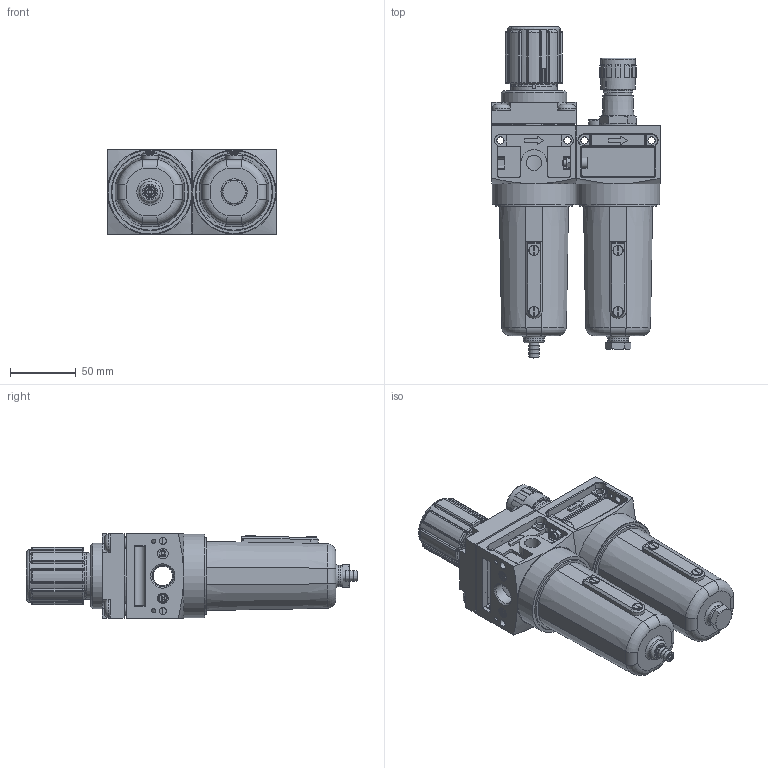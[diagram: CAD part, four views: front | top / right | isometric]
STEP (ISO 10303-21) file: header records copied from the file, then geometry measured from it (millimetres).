
FILE_DESCRIPTION(/* description */ ('GRUPPO FR+L'),/* implementation_level */ '2;1');
FILE_NAME(/* name */ '612#L001D0GN00.stp',/* time_stamp */ '2025-05-13T15:17:58+02:00',/* author */ ('MassimoRatti'),/* organization */ (''),/* preprocessor_version */ 'ST-DEVELOPER v20',/* originating_system */ 'Autodesk Inventor 2025',/* authorisation */ '');
FILE_SCHEMA (('AUTOMOTIVE_DESIGN { 1 0 10303 214 3 1 1 }'));
Length unit declared in the file: millimetre
Products named in the file (86): C90002; C88004; P40018; P52008; C28001; C28001-A; P38062; P43014; 0DQ10400; 0DF51206; P21012; C23036; P43094; P23018; P44025; OR 05006; C22087; P22053; OR 14030; OR 08022; P41061; P20094; 0DM10400; P66008; P61033; P48029; P34118; P34104; P25030; P24026; P24026_1; 0DS50510; 0DS50510_1; 0DS50510_2; 0DS50510_3; P50007; P53003; P53003_1; OR 13091; C55003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
Assembly tree (94 placements, depth 5):
  C90002
    C88004
      P40018
      P52008
      C28001
        C28001-A
        P38062
      P43014
      0DQ10400
      0DF51206
      P21012
      C23036
        P43094
        P23018
        P44025
        OR 05006
      C22087
        P22053
        OR 14030
        OR 08022
        P41061
      P20094
      0DM10400
      P66008
      P61033
      P48029
      P34118
      P34104
      P25030
      P24026
        P24026_1
      0DS50510
      0DS50510_1
      0DS50510_2
      0DS50510_3
      P50007
      P53003
      P53003_1
      C60002
        P60001
        P60002
      OR 04159  x2
      OR 02014  x2
      OR 13091
      C55003
        P20310
        P53004
        OR 12017
        P25037
        OR 07020
        P24050
          P24050_1
    C87003
      09ESA004
        09ESA004_1
      P20099
      P60007
      P60009
      P30017
      P52034
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Bounding box: 128 x 252.6 x 64 mm (x, y, z)
Volume: 344022.3 mm3; surface area: 227199.8 mm2
Topology: 45 solids, 45 shells, 2349 faces, 5923 edges, 3737 vertices
Faces by surface type: plane 1163, cylinder 680, cone 161, torus 155, bspline 135, sphere 55
Full cylindrical faces by diameter (mm): 1 x16, 1.5 x8, 2.5 x1, 3 x10, 3.5 x1, 4.134 x6, 4.8 x1, 4.9 x1, 4.917 x4, 5 x10, 5.1 x7, 5.5 x16, 6.9 x4, 7 x5, 7.5 x6, 7.7 x4, 8 x10, 8.5 x6, 8.566 x2, 9.5 x1, 9.728 x1, 10 x1, 10.8 x2, 11.8 x2, 12 x3, 13 x3, 13.157 x1, 13.8 x1, 14 x5, 14.4 x1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
Entity records: 76246 total; most frequent: CARTESIAN_POINT 19000, ORIENTED_EDGE 11330, DIRECTION 11317, EDGE_CURVE 5665, AXIS2_PLACEMENT_3D 4062, VERTEX_POINT 3608, LINE 3193, VECTOR 3193
